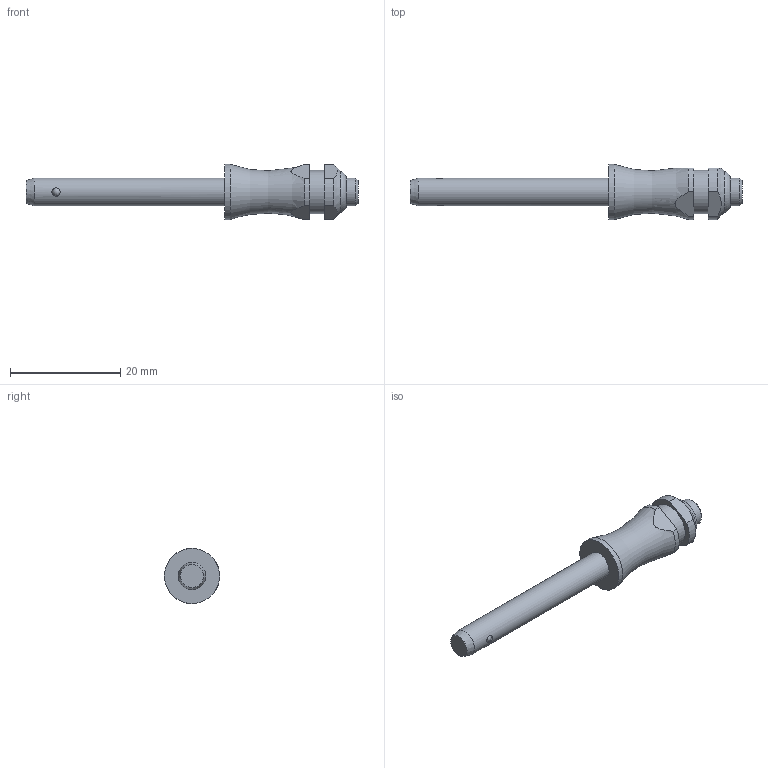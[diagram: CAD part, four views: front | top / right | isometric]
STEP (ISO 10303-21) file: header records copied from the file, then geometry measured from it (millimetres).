
FILE_DESCRIPTION( ( 'STEP AP203' ), '1' );
FILE_NAME( 'C:/Temp/Ganter_Step_05_03_2020/data/3_1/gn113_3/Stainless Steel-Ball lock pin GN 113.3-5-30 (activated).stp', '2020-03-12T08:18:10', ( 'License CC BY-ND 4.0' ), ( 'CADENAS' ), ' ', 'PARTsolutions', ' ' );
FILE_SCHEMA( ( 'CONFIG_CONTROL_DESIGN' ) );
Length unit declared in the file: millimetre
Products named in the file (1): _Stainless Steel-Ball lock pin GN 113.3-5-30 (activated)
Bounding box: 60.15 x 10 x 10 mm (x, y, z)
Volume: 2000.1 mm3; surface area: 1360.7 mm2
Topology: 1 solids, 1 shells, 31 faces, 73 edges, 46 vertices
Faces by surface type: plane 12, cylinder 12, cone 3, torus 2, sphere 2
Full cylindrical faces by diameter (mm): 1.5 x2, 5 x2, 7.9 x1, 10 x1
Entity records: 954 total; most frequent: CARTESIAN_POINT 290, DIRECTION 134, ORIENTED_EDGE 104, AXIS2_PLACEMENT_3D 58, EDGE_CURVE 52, EDGE_LOOP 48, VERTEX_POINT 40, FACE_OUTER_BOUND 39
